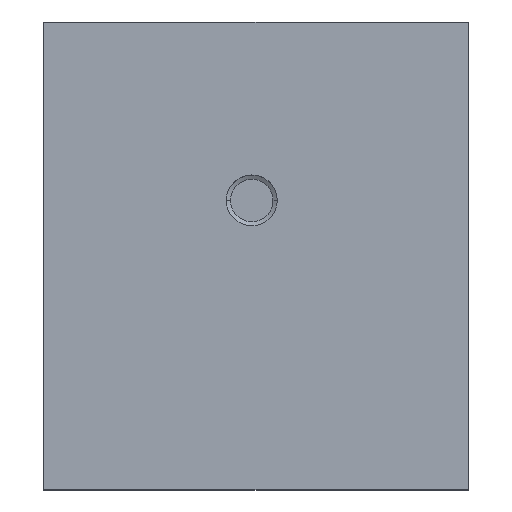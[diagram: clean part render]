
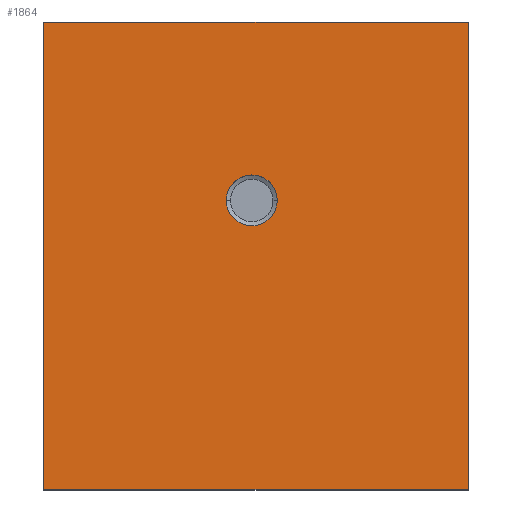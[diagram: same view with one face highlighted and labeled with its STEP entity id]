
A CAD part, top view. The second image highlights one B-rep face of the part: STEP entity #1864.
In plain terms, the highlighted planar face has unit normal (0, 0, 1).
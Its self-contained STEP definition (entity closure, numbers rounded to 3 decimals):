
#32=DIRECTION('',(0.,-1.,0.));
#33=VECTOR('',#32,110.);
#34=CARTESIAN_POINT('',(0.,110.,0.));
#35=LINE('',#34,#33);
#96=DIRECTION('',(1.,0.,0.));
#97=VECTOR('',#96,100.);
#98=CARTESIAN_POINT('',(0.,0.,0.));
#99=LINE('',#98,#97);
#110=DIRECTION('',(1.,0.,0.));
#111=VECTOR('',#110,100.);
#112=CARTESIAN_POINT('',(0.,110.,0.));
#113=LINE('',#112,#111);
#114=CARTESIAN_POINT('',(49.,68.,0.));
#115=DIRECTION('',(0.,0.,-1.));
#116=DIRECTION('',(1.,0.,0.));
#117=AXIS2_PLACEMENT_3D('',#114,#115,#116);
#119=CARTESIAN_POINT('',(49.,68.,0.));
#120=DIRECTION('',(0.,0.,-1.));
#121=DIRECTION('',(-1.,0.,0.));
#122=AXIS2_PLACEMENT_3D('',#119,#120,#121);
#166=DIRECTION('',(0.,-1.,0.));
#167=VECTOR('',#166,110.);
#168=CARTESIAN_POINT('',(100.,110.,0.));
#169=LINE('',#168,#167);
#1435=CARTESIAN_POINT('',(0.,0.,0.));
#1437=VERTEX_POINT('',#1435);
#1441=CARTESIAN_POINT('',(0.,110.,0.));
#1442=VERTEX_POINT('',#1441);
#1443=CARTESIAN_POINT('',(100.,0.,0.));
#1445=VERTEX_POINT('',#1443);
#1449=CARTESIAN_POINT('',(100.,110.,0.));
#1450=VERTEX_POINT('',#1449);
#1599=CARTESIAN_POINT('',(55.,68.,0.));
#1600=VERTEX_POINT('',#1599);
#1601=CARTESIAN_POINT('',(43.,68.,0.));
#1602=VERTEX_POINT('',#1601);
#1845=CARTESIAN_POINT('',(0.,110.,0.));
#1846=DIRECTION('',(0.,0.,1.));
#1847=DIRECTION('',(0.,-1.,0.));
#1848=AXIS2_PLACEMENT_3D('',#1845,#1846,#1847);
#1849=PLANE('',#1848);
#1850=ORIENTED_EDGE('',*,*,#1769,.F.);
#1852=ORIENTED_EDGE('',*,*,#1851,.T.);
#1854=ORIENTED_EDGE('',*,*,#1853,.T.);
#1855=ORIENTED_EDGE('',*,*,#1823,.F.);
#1856=EDGE_LOOP('',(#1850,#1852,#1854,#1855));
#1857=FACE_OUTER_BOUND('',#1856,.F.);
#1859=ORIENTED_EDGE('',*,*,#1858,.F.);
#1861=ORIENTED_EDGE('',*,*,#1860,.F.);
#1862=EDGE_LOOP('',(#1859,#1861));
#1863=FACE_BOUND('',#1862,.F.);
#118=CIRCLE('',#117,6.);
#123=CIRCLE('',#122,6.);
#1769=EDGE_CURVE('',#1442,#1437,#35,.T.);
#1823=EDGE_CURVE('',#1437,#1445,#99,.T.);
#1851=EDGE_CURVE('',#1442,#1450,#113,.T.);
#1853=EDGE_CURVE('',#1450,#1445,#169,.T.);
#1858=EDGE_CURVE('',#1600,#1602,#118,.T.);
#1860=EDGE_CURVE('',#1602,#1600,#123,.T.);
#1864=ADVANCED_FACE('',(#1857,#1863),#1849,.T.);
